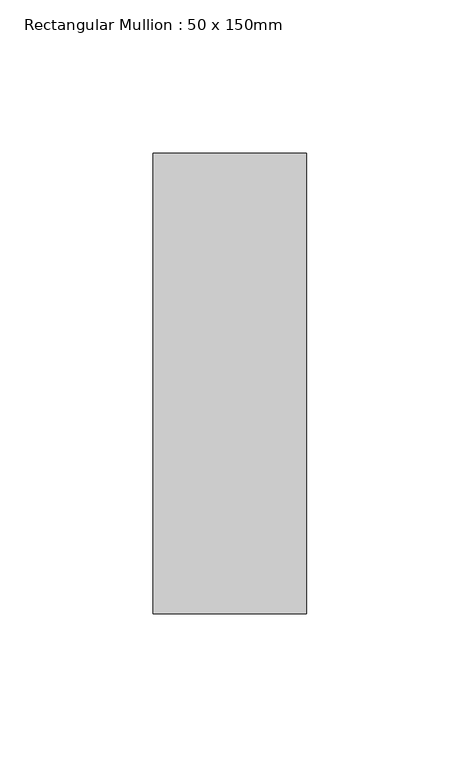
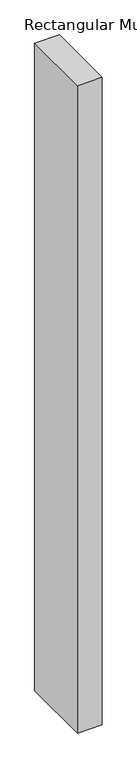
"""IFC4 building model written with IfcOpenShell, lengths in millimetres: member geometry, Rectangular Mullion : 50 x 150mm."""

from ifc_helpers import new_model, si_unit, frame, origin, place, context, project, spatial, polyline, outline, extrude, source, transform, mapped, element, save


def rectangular_mullion_50_x_150mm_ea957ebc(model_context):
    return source(origin(), model_context, "Body", "SweptSolid", [
        extrude(outline(polyline([(0.0, 75.0), (0.0, -75.0), (-50.0, -75.0), (-50.0, 75.0), (0.0, 75.0)])), frame((0.0, 0.0, -1383.3333333), z_axis=(0.0, 0.0, 1.0), x_axis=(1.0, 0.0, 0.0)), (0.0, 0.0, 1.0), 1383.3333333),
    ])


if __name__ == "__main__":
    model = new_model("IFC4")
    model_context = context("Model", 3, world=origin())
    ifc_project = project(units=[si_unit("LENGTHUNIT", "METRE", prefix="MILLI")], contexts=[model_context])
    site = spatial("IfcSite", under=ifc_project)
    building = spatial("IfcBuilding", under=site)
    placement = place(None, origin())
    rectangular_mullion_50_x_150mm_shape = rectangular_mullion_50_x_150mm_ea957ebc(model_context)
    element("IfcMember", 1, ObjectType="Rectangular Mullion : 50 x 150mm", at=placement, inside=building, context=model_context, shape_type="MappedRepresentation", body=[
        mapped(rectangular_mullion_50_x_150mm_shape, transform((0.0, 0.0, 0.0), x_axis=(1.0, 0.0, 0.0), y_axis=(0.0, 1.0, 0.0), z_axis=(0.0, 0.0, 1.0))),
    ])
    save(model, "model.ifc")
